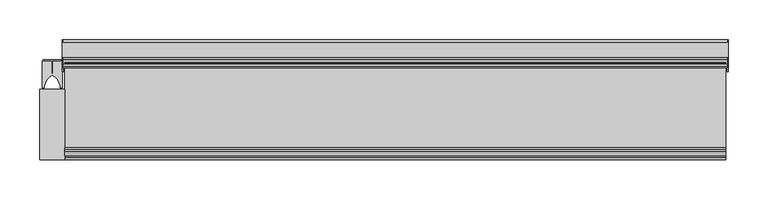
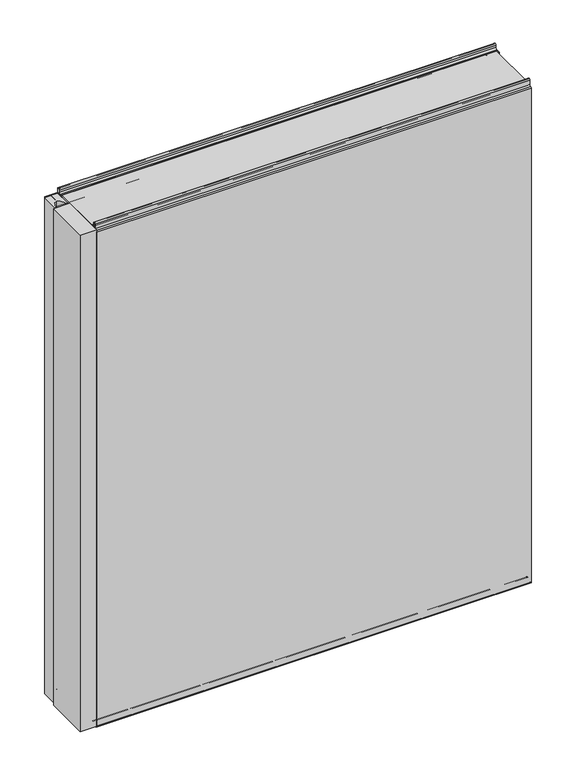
"""IFC4 building model written with IfcOpenShell, lengths in millimetres: plate geometry, Fronttop : Fronttop 150/1000."""

from ifc_helpers import new_model, si_unit, point, frame, frame_2d, origin, origin_with_axes, place, context, project, spatial, polyline, circle_curve, trimmed, segment, composite_curve, outline, extrude, source, transform, mapped, element, save
from ifc_brep_helpers import plane_surface, cylinder_surface, revolved_surface, advanced_brep


def plate_19c01b39(model_context):
    return source(origin(), model_context, "Body", "SolidModel", [
        advanced_brep(
        [(-416.5, 124.0, 1008.0), (-416.5, 121.0, 1008.0), (-416.5, 121.0, 1004.0), (-416.5, 117.0, 1000.0), (-416.5, 115.0, 1000.0), (-416.5, 115.0, 1001.0), (-416.5, 117.0, 1001.0), (-416.5, 120.0, 1004.0), (-416.5, 120.0, 1008.0), (-416.5, 125.0, 1008.0), (-416.5, 125.0, 1000.0), (-416.5, 124.0, 1000.0), (416.5, 125.0, 1008.0), (416.5, 120.0, 1008.0), (416.5, 120.0, 1004.0), (416.5, 117.0, 1001.0), (416.5, 115.0, 1001.0), (416.5, 115.0, 1000.0), (416.5, 117.0, 1000.0), (416.5, 121.0, 1004.0), (416.5, 121.0, 1008.0), (416.5, 124.0, 1008.0), (416.5, 124.0, 1000.0), (416.5, 125.0, 1000.0), (-416.5, 117.0, 2.0), (416.5, 117.0, 2.0), (416.5, 115.0, 2.0), (-416.5, 115.0, 2.0), (-416.5, 119.0, 4.0), (416.5, 119.0, 4.0), (-416.5, 119.0, 8.0), (416.5, 119.0, 8.0), (-416.5, 126.0, 8.0), (416.5, 126.0, 8.0), (-416.5, 126.0, 0.0), (416.5, 126.0, 0.0), (-416.5, 129.0, -3.0), (416.5, 129.0, -3.0), (-416.5, 125.0, -3.0), (-417.5, 125.0, -3.0), (-417.5, 147.0, -3.0), (-416.5, 147.0, -3.0), (416.5, 147.0, -3.0), (417.5, 147.0, -3.0), (417.5, 125.0, -3.0), (416.5, 125.0, -3.0), (-416.5, 150.0, 0.0), (416.5, 150.0, 0.0), (-417.5, 150.0, 0.0), (-417.5, 150.0, 969.0), (-416.5, 150.0, 969.0), (416.5, 150.0, 969.0), (417.5, 150.0, 969.0), (417.5, 150.0, 0.0), (-416.5, 147.0, 972.0), (416.5, 147.0, 972.0), (-417.5, 147.0, 972.0), (-417.5, 128.0, 972.0), (-416.5, 128.0, 972.0), (416.5, 128.0, 972.0), (417.5, 128.0, 972.0), (417.5, 147.0, 972.0), (-416.5, 125.0, 975.0), (416.5, 125.0, 975.0), (-417.5, 125.0, 975.0), (-417.5, 125.0, 1000.0), (417.5, 125.0, 1000.0), (417.5, 125.0, 975.0), (-416.5, 124.0, 975.0), (416.5, 124.0, 975.0), (-416.5, 128.0, 971.0), (416.5, 128.0, 971.0), (-416.5, 147.0, 971.0), (416.5, 147.0, 971.0), (-416.5, 149.0, 969.0), (416.5, 149.0, 969.0), (-416.5, 149.0, 0.0), (416.5, 149.0, 0.0), (-416.5, 147.0, -2.0), (416.5, 147.0, -2.0), (-416.5, 129.0, -2.0), (416.5, 129.0, -2.0), (-416.5, 127.0, 0.0), (416.5, 127.0, 0.0), (-416.5, 127.0, 8.0), (416.5, 127.0, 8.0), (-416.5, 118.0, 8.0), (416.5, 118.0, 8.0), (-416.5, 118.0, 4.0), (416.5, 118.0, 4.0), (-416.5, 117.0, 3.0), (416.5, 117.0, 3.0), (-416.5, 115.0, 3.0), (416.5, 115.0, 3.0), (417.5, 110.0, 1000.0), (417.5, 110.0, 0.0), (417.5, 125.0, 0.0), (416.5, 125.0, 0.0), (416.5, 110.0, 0.0), (416.5, 110.0, 1000.0), (-417.5, 125.0, 0.0), (-417.5, 110.0, 0.0), (-417.5, 110.0, 1000.0), (-416.5, 110.0, 1000.0), (-416.5, 110.0, 0.0), (-416.5, 125.0, 0.0)],
        [
            (0, 1, circle_curve(frame((-416.5, 122.5, 1008.0), z_axis=(1.0, 0.0, 0.0), x_axis=(0.0, -1.0, 0.0)), 1.5)),
            (1, 2),
            (2, 3, circle_curve(frame((-416.5, 117.0, 1004.0), z_axis=(-1.0, 0.0, 0.0), x_axis=(0.0, -1.0, 0.0)), 4.0)),
            (3, 4),
            (4, 5),
            (5, 6),
            (6, 7, circle_curve(frame((-416.5, 117.0, 1004.0), z_axis=(1.0, 0.0, 0.0), x_axis=(0.0, -1.0, 0.0)), 3.0)),
            (7, 8),
            (8, 9, circle_curve(frame((-416.5, 122.5, 1008.0), z_axis=(-1.0, 0.0, 0.0), x_axis=(0.0, -1.0, 0.0)), 2.5)),
            (9, 10),
            (10, 11),
            (11, 0),
            (12, 13, circle_curve(frame((416.5, 122.5, 1008.0), z_axis=(1.0, 0.0, 0.0), x_axis=(0.0, -1.0, 0.0)), 2.5)),
            (13, 14),
            (14, 15, circle_curve(frame((416.5, 117.0, 1004.0), z_axis=(-1.0, 0.0, 0.0), x_axis=(0.0, -1.0, 0.0)), 3.0)),
            (15, 16),
            (16, 17),
            (17, 18),
            (18, 19, circle_curve(frame((416.5, 117.0, 1004.0), z_axis=(1.0, 0.0, 0.0), x_axis=(0.0, -1.0, 0.0)), 4.0)),
            (19, 20),
            (20, 21, circle_curve(frame((416.5, 122.5, 1008.0), z_axis=(-1.0, 0.0, 0.0), x_axis=(0.0, -1.0, 0.0)), 1.5)),
            (21, 22),
            (22, 23),
            (23, 12),
            (24, 25),
            (25, 26),
            (26, 27),
            (27, 24),
            (24, 28, circle_curve(frame((-416.5, 117.0, 4.0), z_axis=(1.0, 0.0, 0.0), x_axis=(0.0, -1.0, 0.0)), 2.0)),
            (28, 29),
            (29, 25, circle_curve(frame((416.5, 117.0, 4.0), z_axis=(-1.0, 0.0, 0.0), x_axis=(0.0, -1.0, 0.0)), 2.0)),
            (28, 30),
            (30, 31),
            (31, 29),
            (30, 32, circle_curve(frame((-416.5, 122.5, 8.0), z_axis=(-1.0, 0.0, 0.0), x_axis=(0.0, -1.0, 0.0)), 3.5)),
            (32, 33),
            (33, 31, circle_curve(frame((416.5, 122.5, 8.0), z_axis=(1.0, 0.0, 0.0), x_axis=(0.0, -1.0, 0.0)), 3.5)),
            (32, 34),
            (34, 35),
            (35, 33),
            (34, 36, circle_curve(frame((-416.5, 129.0, 0.0), z_axis=(1.0, 0.0, 0.0), x_axis=(0.0, -1.0, 0.0)), 3.0)),
            (36, 37),
            (37, 35, circle_curve(frame((416.5, 129.0, 0.0), z_axis=(-1.0, 0.0, 0.0), x_axis=(0.0, -1.0, 0.0)), 3.0)),
            (36, 38),
            (38, 39),
            (39, 40),
            (40, 41),
            (41, 42),
            (42, 43),
            (43, 44),
            (44, 45),
            (45, 37),
            (41, 46, circle_curve(frame((-416.5, 147.0, 0.0), z_axis=(1.0, 0.0, 0.0), x_axis=(0.0, -1.0, 0.0)), 3.0)),
            (46, 47),
            (47, 42, circle_curve(frame((416.5, 147.0, 0.0), z_axis=(-1.0, 0.0, 0.0), x_axis=(0.0, -1.0, 0.0)), 3.0)),
            (46, 48),
            (48, 49),
            (49, 50),
            (50, 51),
            (51, 52),
            (52, 53),
            (53, 47),
            (50, 54, circle_curve(frame((-416.5, 147.0, 969.0), z_axis=(1.0, 0.0, 0.0), x_axis=(0.0, -1.0, 0.0)), 3.0)),
            (54, 55),
            (55, 51, circle_curve(frame((416.5, 147.0, 969.0), z_axis=(-1.0, 0.0, 0.0), x_axis=(0.0, -1.0, 0.0)), 3.0)),
            (54, 56),
            (56, 57),
            (57, 58),
            (58, 59),
            (59, 60),
            (60, 61),
            (61, 55),
            (58, 62, circle_curve(frame((-416.5, 128.0, 975.0), z_axis=(-1.0, 0.0, 0.0), x_axis=(0.0, -1.0, 0.0)), 3.0)),
            (62, 63),
            (63, 59, circle_curve(frame((416.5, 128.0, 975.0), z_axis=(1.0, 0.0, 0.0), x_axis=(0.0, -1.0, 0.0)), 3.0)),
            (62, 64),
            (64, 65),
            (65, 10),
            (9, 12),
            (23, 66),
            (66, 67),
            (67, 63),
            (8, 13),
            (7, 14),
            (6, 15),
            (5, 16),
            (4, 17),
            (4, 3),
            (3, 18),
            (18, 17),
            (2, 19),
            (1, 20),
            (0, 21),
            (11, 68),
            (68, 69),
            (69, 22),
            (68, 70, circle_curve(frame((-416.5, 128.0, 975.0), z_axis=(1.0, 0.0, 0.0), x_axis=(0.0, -1.0, 0.0)), 4.0)),
            (70, 71),
            (71, 69, circle_curve(frame((416.5, 128.0, 975.0), z_axis=(-1.0, 0.0, 0.0), x_axis=(0.0, -1.0, 0.0)), 4.0)),
            (70, 72),
            (72, 73),
            (73, 71),
            (72, 74, circle_curve(frame((-416.5, 147.0, 969.0), z_axis=(-1.0, 0.0, 0.0), x_axis=(0.0, -1.0, 0.0)), 2.0)),
            (74, 75),
            (75, 73, circle_curve(frame((416.5, 147.0, 969.0), z_axis=(1.0, 0.0, 0.0), x_axis=(0.0, -1.0, 0.0)), 2.0)),
            (74, 76),
            (76, 77),
            (77, 75),
            (76, 78, circle_curve(frame((-416.5, 147.0, 0.0), z_axis=(-1.0, 0.0, 0.0), x_axis=(0.0, -1.0, 0.0)), 2.0)),
            (78, 79),
            (79, 77, circle_curve(frame((416.5, 147.0, 0.0), z_axis=(1.0, 0.0, 0.0), x_axis=(0.0, -1.0, 0.0)), 2.0)),
            (78, 80),
            (80, 81),
            (81, 79),
            (80, 82, circle_curve(frame((-416.5, 129.0, 0.0), z_axis=(-1.0, 0.0, 0.0), x_axis=(0.0, -1.0, 0.0)), 2.0)),
            (82, 83),
            (83, 81, circle_curve(frame((416.5, 129.0, 0.0), z_axis=(1.0, 0.0, 0.0), x_axis=(0.0, -1.0, 0.0)), 2.0)),
            (82, 84),
            (84, 85),
            (85, 83),
            (84, 86, circle_curve(frame((-416.5, 122.5, 8.0), z_axis=(1.0, 0.0, 0.0), x_axis=(0.0, -1.0, 0.0)), 4.5)),
            (86, 87),
            (87, 85, circle_curve(frame((416.5, 122.5, 8.0), z_axis=(-1.0, 0.0, 0.0), x_axis=(0.0, -1.0, 0.0)), 4.5)),
            (86, 88),
            (88, 89),
            (89, 87),
            (88, 90, circle_curve(frame((-416.5, 117.0, 4.0), z_axis=(-1.0, 0.0, 0.0), x_axis=(0.0, -1.0, 0.0)), 1.0)),
            (90, 91),
            (91, 89, circle_curve(frame((416.5, 117.0, 4.0), z_axis=(1.0, 0.0, 0.0), x_axis=(0.0, -1.0, 0.0)), 1.0)),
            (90, 92),
            (92, 93),
            (93, 91),
            (26, 93),
            (92, 27),
            (66, 94),
            (94, 95),
            (95, 96),
            (96, 44),
            (43, 53, circle_curve(frame((417.5, 147.0, 0.0), z_axis=(1.0, 0.0, 0.0), x_axis=(0.0, 1.0, 0.0)), 3.0)),
            (52, 61, circle_curve(frame((417.5, 147.0, 969.0), z_axis=(1.0, 0.0, 0.0), x_axis=(0.0, 1.0, 0.0)), 3.0)),
            (60, 67, circle_curve(frame((417.5, 128.0, 975.0), z_axis=(-1.0, 0.0, 0.0), x_axis=(0.0, 1.0, 0.0)), 3.0)),
            (45, 97),
            (97, 98),
            (98, 99),
            (99, 17),
            (18, 22),
            (99, 94),
            (98, 95),
            (97, 96),
            (64, 57, circle_curve(frame((-417.5, 128.0, 975.0), z_axis=(1.0, 0.0, 0.0), x_axis=(0.0, 1.0, 0.0)), 3.0)),
            (56, 49, circle_curve(frame((-417.5, 147.0, 969.0), z_axis=(-1.0, 0.0, 0.0), x_axis=(0.0, 1.0, 0.0)), 3.0)),
            (48, 40, circle_curve(frame((-417.5, 147.0, 0.0), z_axis=(-1.0, 0.0, 0.0), x_axis=(0.0, 1.0, 0.0)), 3.0)),
            (39, 100),
            (100, 101),
            (101, 102),
            (102, 65),
            (103, 104),
            (104, 105),
            (105, 38),
            (11, 3),
            (4, 103),
            (102, 103),
            (101, 104),
            (100, 105),
        ],
        [
            plane_surface(frame((-416.5, 0.0, 0.0), z_axis=(-1.0, 0.0, 0.0), x_axis=(0.0, 0.0, 1.0))),
            plane_surface(frame((416.5, 0.0, 0.0), z_axis=(1.0, 0.0, 0.0), x_axis=(0.0, 0.0, 1.0))),
            plane_surface(frame((-416.5, 117.0, 2.0), z_axis=(0.0, 0.0, -1.0), x_axis=(1.0, 0.0, 0.0))),
            cylinder_surface(frame((-416.5, 117.0, 4.0), z_axis=(-1.0, 0.0, 0.0), x_axis=(0.0, -1.0, 0.0)), 2.0),
            plane_surface(frame((-416.5, 119.0, 8.0), z_axis=(0.0, 1.0, 0.0), x_axis=(1.0, 0.0, 0.0))),
            revolved_surface(polyline([(416.5, 119.0, 8.0), (-416.5, 119.0, 8.0)]), (-416.5, 122.5, 8.0), (1.0, 0.0, 0.0)),
            plane_surface(frame((-416.5, 126.0, 0.0), z_axis=(0.0, -1.0, 0.0), x_axis=(1.0, 0.0, 0.0))),
            cylinder_surface(frame((-416.5, 129.0, 0.0), z_axis=(-1.0, 0.0, 0.0), x_axis=(0.0, -1.0, 0.0)), 3.0),
            plane_surface(frame((-416.5, 147.0, -3.0), z_axis=(0.0, 0.0, -1.0), x_axis=(1.0, 0.0, 0.0))),
            cylinder_surface(frame((-416.5, 147.0, 0.0), z_axis=(-1.0, 0.0, 0.0), x_axis=(0.0, -1.0, 0.0)), 3.0),
            plane_surface(frame((-416.5, 150.0, 969.0), z_axis=(0.0, 1.0, 0.0), x_axis=(1.0, 0.0, 0.0))),
            cylinder_surface(frame((-416.5, 147.0, 969.0), z_axis=(-1.0, 0.0, 0.0), x_axis=(0.0, -1.0, 0.0)), 3.0),
            plane_surface(frame((-416.5, 128.0, 972.0), z_axis=(0.0, 0.0, 1.0), x_axis=(1.0, 0.0, 0.0))),
            revolved_surface(polyline([(416.5, 125.0, 975.0), (-416.5, 125.0, 975.0)]), (-416.5, 128.0, 975.0), (1.0, 0.0, 0.0)),
            plane_surface(frame((-416.5, 125.0, 1008.0), z_axis=(0.0, 1.0, 0.0), x_axis=(1.0, 0.0, 0.0))),
            cylinder_surface(frame((-416.5, 122.5, 1008.0), z_axis=(-1.0, 0.0, 0.0), x_axis=(0.0, -1.0, 0.0)), 2.5),
            plane_surface(frame((-416.5, 120.0, 1004.0), z_axis=(0.0, -1.0, 0.0), x_axis=(1.0, 0.0, 0.0))),
            revolved_surface(polyline([(416.5, 114.0, 1004.0), (-416.5, 114.0, 1004.0)]), (-416.5, 117.0, 1004.0), (1.0, 0.0, 0.0)),
            plane_surface(frame((-416.5, 115.0, 1001.0), z_axis=(0.0, 0.0, 1.0), x_axis=(1.0, 0.0, 0.0))),
            plane_surface(frame((-416.5, 115.0, 1000.0), z_axis=(0.0, -1.0, 0.0), x_axis=(1.0, 0.0, 0.0))),
            plane_surface(frame((-416.5, 117.0, 1000.0), z_axis=(0.0, 0.0, -1.0), x_axis=(1.0, 0.0, 0.0))),
            cylinder_surface(frame((-416.5, 117.0, 1004.0), z_axis=(-1.0, 0.0, 0.0), x_axis=(0.0, -1.0, 0.0)), 4.0),
            plane_surface(frame((-416.5, 121.0, 1008.0), z_axis=(0.0, 1.0, 0.0), x_axis=(1.0, 0.0, 0.0))),
            revolved_surface(polyline([(416.5, 121.0, 1008.0), (-416.5, 121.0, 1008.0)]), (-416.5, 122.5, 1008.0), (1.0, 0.0, 0.0)),
            plane_surface(frame((-416.5, 124.0, 975.0), z_axis=(0.0, -1.0, 0.0), x_axis=(1.0, 0.0, 0.0))),
            cylinder_surface(frame((-416.5, 128.0, 975.0), z_axis=(-1.0, 0.0, 0.0), x_axis=(0.0, -1.0, 0.0)), 4.0),
            plane_surface(frame((-416.5, 147.0, 971.0), z_axis=(0.0, 0.0, -1.0), x_axis=(1.0, 0.0, 0.0))),
            revolved_surface(polyline([(416.5, 145.0, 969.0), (-416.5, 145.0, 969.0)]), (-416.5, 147.0, 969.0), (1.0, 0.0, 0.0)),
            plane_surface(frame((-416.5, 149.0, 0.0), z_axis=(0.0, -1.0, 0.0), x_axis=(1.0, 0.0, 0.0))),
            revolved_surface(polyline([(416.5, 145.0, 0.0), (-416.5, 145.0, 0.0)]), (-416.5, 147.0, 0.0), (1.0, 0.0, 0.0)),
            plane_surface(frame((-416.5, 129.0, -2.0), z_axis=(0.0, 0.0, 1.0), x_axis=(1.0, 0.0, 0.0))),
            revolved_surface(polyline([(416.5, 127.0, 0.0), (-416.5, 127.0, 0.0)]), (-416.5, 129.0, 0.0), (1.0, 0.0, 0.0)),
            plane_surface(frame((-416.5, 127.0, 8.0), z_axis=(0.0, 1.0, 0.0), x_axis=(1.0, 0.0, 0.0))),
            cylinder_surface(frame((-416.5, 122.5, 8.0), z_axis=(-1.0, 0.0, 0.0), x_axis=(0.0, -1.0, 0.0)), 4.5),
            plane_surface(frame((-416.5, 118.0, 4.0), z_axis=(0.0, -1.0, 0.0), x_axis=(1.0, 0.0, 0.0))),
            revolved_surface(polyline([(416.5, 116.0, 4.0), (-416.5, 116.0, 4.0)]), (-416.5, 117.0, 4.0), (1.0, 0.0, 0.0)),
            plane_surface(frame((-416.5, 115.0, 3.0), z_axis=(0.0, 0.0, 1.0), x_axis=(1.0, 0.0, 0.0))),
            plane_surface(frame((-416.5, 115.0, 2.0), z_axis=(0.0, -1.0, 0.0), x_axis=(1.0, 0.0, 0.0))),
            plane_surface(frame((417.5, 125.0, 1000.0), z_axis=(1.0, 0.0, 0.0), x_axis=(0.0, -1.0, 0.0))),
            plane_surface(frame((416.5, 125.0, 1000.0), z_axis=(-1.0, 0.0, 0.0), x_axis=(0.0, 1.0, 0.0))),
            plane_surface(frame((417.5, 125.0, 1000.0), z_axis=(0.0, 0.0, 1.0), x_axis=(-1.0, 0.0, 0.0))),
            plane_surface(frame((417.5, 110.0, 1000.0), z_axis=(0.0, -1.0, 0.0), x_axis=(-1.0, 0.0, 0.0))),
            plane_surface(frame((417.5, 110.0, 0.0), z_axis=(0.0, 0.0, -1.0), x_axis=(-1.0, 0.0, 0.0))),
            cylinder_surface(frame((416.5, 147.0, 0.0), z_axis=(1.0, 0.0, 0.0), x_axis=(0.0, 1.0, 0.0)), 3.0),
            cylinder_surface(frame((416.5, 147.0, 969.0), z_axis=(1.0, 0.0, 0.0), x_axis=(0.0, 1.0, 0.0)), 3.0),
            revolved_surface(polyline([(416.5, 131.0, 975.0), (417.5, 131.0, 975.0)]), (416.5, 128.0, 975.0), (-1.0, 0.0, 0.0)),
            plane_surface(frame((-417.5, 125.0, 1000.0), z_axis=(-1.0, 0.0, 0.0), x_axis=(0.0, 1.0, 0.0))),
            plane_surface(frame((-416.5, 125.0, 1000.0), z_axis=(1.0, 0.0, 0.0), x_axis=(0.0, -1.0, 0.0))),
            plane_surface(frame((-416.5, 125.0, 1000.0), z_axis=(0.0, 0.0, 1.0), x_axis=(-1.0, 0.0, 0.0))),
            plane_surface(frame((-416.5, 110.0, 1000.0), z_axis=(0.0, -1.0, 0.0), x_axis=(-1.0, 0.0, 0.0))),
            plane_surface(frame((-416.5, 110.0, 0.0), z_axis=(0.0, 0.0, -1.0), x_axis=(-1.0, 0.0, 0.0))),
            cylinder_surface(frame((-417.5, 147.0, 0.0), z_axis=(1.0, 0.0, 0.0), x_axis=(0.0, 1.0, 0.0)), 3.0),
            cylinder_surface(frame((-417.5, 147.0, 969.0), z_axis=(1.0, 0.0, 0.0), x_axis=(0.0, 1.0, 0.0)), 3.0),
            revolved_surface(polyline([(-417.5, 131.0, 975.0), (-416.5, 131.0, 975.0)]), (-417.5, 128.0, 975.0), (-1.0, 0.0, 0.0)),
            plane_surface(frame((417.5, 125.0, 0.0), z_axis=(0.0, -1.0, 0.0), x_axis=(-1.0, 0.0, 0.0))),
            plane_surface(frame((-416.5, 125.0, 0.0), z_axis=(0.0, -1.0, 0.0), x_axis=(-1.0, 0.0, 0.0))),
        ],
        [
            (0, [[1, 2, 3, 4, 5, 6, 7, 8, 9, 10, 11, 12]]),
            (1, [[13, 14, 15, 16, 17, 18, 19, 20, 21, 22, 23, 24]]),
            (2, [[25, 26, 27, 28]]),
            (3, [[-25, 29, 30, 31]]),
            (4, [[-30, 32, 33, 34]]),
            (5, [[-33, 35, 36, 37]]),
            (6, [[-36, 38, 39, 40]]),
            (7, [[-39, 41, 42, 43]]),
            (8, [[-42, 44, 45, 46, 47, 48, 49, 50, 51, 52]]),
            (9, [[-48, 53, 54, 55]]),
            (10, [[-54, 56, 57, 58, 59, 60, 61, 62]]),
            (11, [[-59, 63, 64, 65]]),
            (12, [[-64, 66, 67, 68, 69, 70, 71, 72]]),
            (13, [[-69, 73, 74, 75]]),
            (14, [[-74, 76, 77, 78, -10, 79, -24, 80, 81, 82]]),
            (15, [[-9, 83, -13, -79]]),
            (16, [[-8, 84, -14, -83]]),
            (17, [[-7, 85, -15, -84]]),
            (18, [[-6, 86, -16, -85]]),
            (19, [[-5, 87, -17, -86]]),
            (20, [[-87, 88, 89, 90]]),
            (21, [[-3, 91, -19, -89]]),
            (22, [[-2, 92, -20, -91]]),
            (23, [[-1, 93, -21, -92]]),
            (24, [[-93, -12, 94, 95, 96, -22]]),
            (25, [[-95, 97, 98, 99]]),
            (26, [[-98, 100, 101, 102]]),
            (27, [[-101, 103, 104, 105]]),
            (28, [[-104, 106, 107, 108]]),
            (29, [[-107, 109, 110, 111]]),
            (30, [[-110, 112, 113, 114]]),
            (31, [[-113, 115, 116, 117]]),
            (32, [[-116, 118, 119, 120]]),
            (33, [[-119, 121, 122, 123]]),
            (34, [[-122, 124, 125, 126]]),
            (35, [[-125, 127, 128, 129]]),
            (36, [[-128, 130, 131, 132]]),
            (37, [[-27, 133, -131, 134]]),
            (38, [[135, 136, 137, 138, -50, 139, -61, 140, -71, 141, -81]]),
            (39, [[142, 143, 144, 145, -90, 146, -96, -99, -102, -105, -108, -111, -114, -117, -120, -123, -126, -129, -132, -133, -26, -31, -34, -37, -40, -43, -52]]),
            (40, [[-135, -80, -23, -146, -18, -145, 147]]),
            (41, [[-136, -147, -144, 148]]),
            (42, [[-137, -148, -143, 149]]),
            (43, [[-139, -49, -55, -62]]),
            (44, [[-140, -60, -65, -72]]),
            (45, [[-141, -70, -75, -82]]),
            (46, [[-77, 150, -67, 151, -57, 152, -46, 153, 154, 155, 156]]),
            (47, [[157, 158, 159, -44, -41, -38, -35, -32, -29, -28, -134, -130, -127, -124, -121, -118, -115, -112, -109, -106, -103, -100, -97, -94, 160, -88, 161]]),
            (48, [[-156, 162, -161, -4, -160, -11, -78]]),
            (49, [[-155, 163, -157, -162]]),
            (50, [[-154, 164, -158, -163]]),
            (51, [[-152, -56, -53, -47]]),
            (52, [[-151, -66, -63, -58]]),
            (53, [[-150, -76, -73, -68]]),
            (54, [[-138, -149, -142, -51]]),
            (55, [[-153, -45, -159, -164]]),
        ],
    ),
        extrude(outline(composite_curve([segment(polyline([(-442.5001545, 123.5), (-430.75, 123.5), (-430.75, 107.5), (-429.25, 107.5), (-429.25, 123.5), (-417.4998455, 123.5), (-417.4998455, 90.0), (-420.25, 90.0), (-420.25, 92.5)]), True, "CONTINUOUS"), segment(trimmed(circle_curve(frame_2d((-438.0338021, 89.3183984)), 18.0661619), [point((-420.25, 92.5))], [point((-430.0, 105.5))], True, "CARTESIAN"), True, "CONTINUOUS"), segment(trimmed(circle_curve(frame_2d((-421.9661979, 89.3183984)), 18.0661619), [point((-430.0, 105.5))], [point((-439.75, 92.5))], True, "CARTESIAN"), True, "CONTINUOUS"), segment(polyline([(-439.75, 92.5), (-439.75, 90.0), (-442.5001545, 90.0), (-442.5001545, 123.5)]), True, "CONTINUOUS")], self_intersect=False)), origin_with_axes(), (0.0, 0.0, 1.0), 1000.0),
        extrude(outline(polyline([(-414.5, 0.0), (-445.5, 0.0), (-445.5, 88.0), (-414.5, 88.0), (-414.5, 0.0)])), origin_with_axes(), (0.0, 0.0, 1.0), 1000.0),
        extrude(outline(polyline([(-441.5051154, 125.0), (-418.4948846, 125.0), (-418.4948846, 123.5), (-429.3497504, 123.5), (-429.3497504, 109.0759655), (-430.65, 109.0759655), (-430.65, 123.5), (-441.5051154, 123.5), (-441.5051154, 125.0)])), origin_with_axes(), (0.0, 0.0, 1.0), 1000.0),
        advanced_brep(
        [(-414.5, 13.0, 1001.0), (-414.5, 15.0, 1001.0), (-414.5, 15.0, 1000.0), (-414.5, 13.0, 1000.0), (-414.5, 9.0, 1004.0), (-414.5, 9.0, 1008.0), (-414.5, 6.0, 1008.0), (-414.5, 6.0, 999.5), (-414.5, 2.1134897, 996.0214069), (-414.5, 1.0, 995.0), (-414.5, 1.0, -0.5), (-414.5, 3.0, -0.5), (-414.5, 3.0, 8.0), (-414.5, 12.0, 8.0), (-414.5, 12.0, 4.0), (-414.5, 13.0, 3.0), (-414.5, 15.0, 3.0), (-414.5, 15.0, 2.0), (-414.5, 13.0, 2.0), (-414.5, 11.0, 4.0), (-414.5, 11.0, 8.0), (-414.5, 4.0, 8.0), (-414.5, 4.0, -0.5), (-414.5, 0.0, -0.5), (-414.5, 0.0, 995.0), (-414.5, 2.220863, 996.9877675), (-414.5, 5.0, 999.5), (-414.5, 5.0, 1008.0), (-414.5, 10.0, 1008.0), (-414.5, 10.0, 1004.0), (414.5, 13.0, 1001.0), (414.5, 10.0, 1004.0), (414.5, 10.0, 1008.0), (414.5, 5.0, 1008.0), (414.5, 5.0, 999.5), (414.5, 2.2239212, 997.0152907), (414.5, 0.0, 995.0), (414.5, 0.0, -0.5), (414.5, 4.0, -0.5), (414.5, 4.0, 8.0), (414.5, 11.0, 8.0), (414.5, 11.0, 4.0), (414.5, 13.0, 2.0), (414.5, 15.0, 2.0), (414.5, 15.0, 3.0), (414.5, 13.0, 3.0), (414.5, 12.0, 4.0), (414.5, 12.0, 8.0), (414.5, 3.0, 8.0), (414.5, 3.0, -0.5), (414.5, 1.0, -0.5), (414.5, 1.0, 995.0), (414.5, 2.1104315, 995.9938837), (414.5, 6.0, 999.5), (414.5, 6.0, 1008.0), (414.5, 9.0, 1008.0), (414.5, 9.0, 1004.0), (414.5, 13.0, 1000.0), (414.5, 15.0, 1000.0), (414.5, 15.0, 1001.0)],
        [
            (0, 1),
            (1, 2),
            (2, 3),
            (3, 4, circle_curve(frame((-414.5, 13.0, 1004.0), z_axis=(-1.0, 0.0, 0.0), x_axis=(0.0, -1.0, 0.0)), 4.0)),
            (4, 5),
            (5, 6, circle_curve(frame((-414.5, 7.5, 1008.0), z_axis=(1.0, 0.0, 0.0), x_axis=(0.0, -1.0, 0.0)), 1.5)),
            (6, 7),
            (7, 8, circle_curve(frame((-414.5, 2.5, 999.5), z_axis=(-1.0, 0.0, 0.0), x_axis=(0.0, -1.0, 0.0)), 3.5)),
            (8, 9, circle_curve(frame((-414.5, 2.0, 995.0), z_axis=(1.0, 0.0, 0.0), x_axis=(0.0, -1.0, 0.0)), 1.0)),
            (9, 10),
            (10, 11, circle_curve(frame((-414.5, 2.0, -0.5), z_axis=(1.0, 0.0, 0.0), x_axis=(0.0, -1.0, 0.0)), 1.0)),
            (11, 12),
            (12, 13, circle_curve(frame((-414.5, 7.5, 8.0), z_axis=(-1.0, 0.0, 0.0), x_axis=(0.0, -1.0, 0.0)), 4.5)),
            (13, 14),
            (14, 15, circle_curve(frame((-414.5, 13.0, 4.0), z_axis=(1.0, 0.0, 0.0), x_axis=(0.0, -1.0, 0.0)), 1.0)),
            (15, 16),
            (16, 17),
            (17, 18),
            (18, 19, circle_curve(frame((-414.5, 13.0, 4.0), z_axis=(-1.0, 0.0, 0.0), x_axis=(0.0, -1.0, 0.0)), 2.0)),
            (19, 20),
            (20, 21, circle_curve(frame((-414.5, 7.5, 8.0), z_axis=(1.0, 0.0, 0.0), x_axis=(0.0, -1.0, 0.0)), 3.5)),
            (21, 22),
            (22, 23, circle_curve(frame((-414.5, 2.0, -0.5), z_axis=(-1.0, 0.0, 0.0), x_axis=(0.0, -1.0, 0.0)), 2.0)),
            (23, 24),
            (24, 25, circle_curve(frame((-414.5, 2.0, 995.0), z_axis=(-1.0, 0.0, 0.0), x_axis=(0.0, -1.0, 0.0)), 2.0)),
            (25, 26, circle_curve(frame((-414.5, 2.5, 999.5), z_axis=(1.0, 0.0, 0.0), x_axis=(0.0, -1.0, 0.0)), 2.5)),
            (26, 27),
            (27, 28, circle_curve(frame((-414.5, 7.5, 1008.0), z_axis=(-1.0, 0.0, 0.0), x_axis=(0.0, -1.0, 0.0)), 2.5)),
            (28, 29),
            (29, 0, circle_curve(frame((-414.5, 13.0, 1004.0), z_axis=(1.0, 0.0, 0.0), x_axis=(0.0, -1.0, 0.0)), 3.0)),
            (30, 31, circle_curve(frame((414.5, 13.0, 1004.0), z_axis=(-1.0, 0.0, 0.0), x_axis=(0.0, -1.0, 0.0)), 3.0)),
            (31, 32),
            (32, 33, circle_curve(frame((414.5, 7.5, 1008.0), z_axis=(1.0, 0.0, 0.0), x_axis=(0.0, -1.0, 0.0)), 2.5)),
            (33, 34),
            (34, 35, circle_curve(frame((414.5, 2.5, 999.5), z_axis=(-1.0, 0.0, 0.0), x_axis=(0.0, -1.0, 0.0)), 2.5)),
            (35, 36, circle_curve(frame((414.5, 2.0, 995.0), z_axis=(1.0, 0.0, 0.0), x_axis=(0.0, -1.0, 0.0)), 2.0)),
            (36, 37),
            (37, 38, circle_curve(frame((414.5, 2.0, -0.5), z_axis=(1.0, 0.0, 0.0), x_axis=(0.0, -1.0, 0.0)), 2.0)),
            (38, 39),
            (39, 40, circle_curve(frame((414.5, 7.5, 8.0), z_axis=(-1.0, 0.0, 0.0), x_axis=(0.0, -1.0, 0.0)), 3.5)),
            (40, 41),
            (41, 42, circle_curve(frame((414.5, 13.0, 4.0), z_axis=(1.0, 0.0, 0.0), x_axis=(0.0, -1.0, 0.0)), 2.0)),
            (42, 43),
            (43, 44),
            (44, 45),
            (45, 46, circle_curve(frame((414.5, 13.0, 4.0), z_axis=(-1.0, 0.0, 0.0), x_axis=(0.0, -1.0, 0.0)), 1.0)),
            (46, 47),
            (47, 48, circle_curve(frame((414.5, 7.5, 8.0), z_axis=(1.0, 0.0, 0.0), x_axis=(0.0, -1.0, 0.0)), 4.5)),
            (48, 49),
            (49, 50, circle_curve(frame((414.5, 2.0, -0.5), z_axis=(-1.0, 0.0, 0.0), x_axis=(0.0, -1.0, 0.0)), 1.0)),
            (50, 51),
            (51, 52, circle_curve(frame((414.5, 2.0, 995.0), z_axis=(-1.0, 0.0, 0.0), x_axis=(0.0, -1.0, 0.0)), 1.0)),
            (52, 53, circle_curve(frame((414.5, 2.5, 999.5), z_axis=(1.0, 0.0, 0.0), x_axis=(0.0, -1.0, 0.0)), 3.5)),
            (53, 54),
            (54, 55, circle_curve(frame((414.5, 7.5, 1008.0), z_axis=(-1.0, 0.0, 0.0), x_axis=(0.0, -1.0, 0.0)), 1.5)),
            (55, 56),
            (56, 57, circle_curve(frame((414.5, 13.0, 1004.0), z_axis=(1.0, 0.0, 0.0), x_axis=(0.0, -1.0, 0.0)), 4.0)),
            (57, 58),
            (58, 59),
            (59, 30),
            (0, 30),
            (59, 1),
            (58, 2),
            (57, 3),
            (56, 4),
            (55, 5),
            (54, 6),
            (53, 7),
            (52, 8),
            (51, 9),
            (50, 10),
            (49, 11),
            (48, 12),
            (47, 13),
            (46, 14),
            (45, 15),
            (44, 16),
            (43, 17),
            (42, 18),
            (41, 19),
            (40, 20),
            (39, 21),
            (38, 22),
            (37, 23),
            (36, 24),
            (35, 25),
            (34, 26),
            (33, 27),
            (32, 28),
            (31, 29),
        ],
        [
            plane_surface(frame((-414.5, 0.0, 0.0), z_axis=(-1.0, 0.0, 0.0), x_axis=(0.0, 0.0, 1.0))),
            plane_surface(frame((414.5, 0.0, 0.0), z_axis=(1.0, 0.0, 0.0), x_axis=(0.0, 0.0, 1.0))),
            plane_surface(frame((-414.5, 13.0, 1001.0), z_axis=(0.0, 0.0, 1.0), x_axis=(1.0, 0.0, 0.0))),
            plane_surface(frame((-414.5, 15.0, 1001.0), z_axis=(0.0, 1.0, 0.0), x_axis=(1.0, 0.0, 0.0))),
            plane_surface(frame((-414.5, 15.0, 1000.0), z_axis=(0.0, 0.0, -1.0), x_axis=(1.0, 0.0, 0.0))),
            cylinder_surface(frame((-414.5, 13.0, 1004.0), z_axis=(-1.0, 0.0, 0.0), x_axis=(0.0, -1.0, 0.0)), 4.0),
            plane_surface(frame((-414.5, 9.0, 1004.0), z_axis=(0.0, -1.0, 0.0), x_axis=(1.0, 0.0, 0.0))),
            revolved_surface(polyline([(414.5, 6.0, 1008.0), (-414.5, 6.0, 1008.0)]), (-414.5, 7.5, 1008.0), (1.0, 0.0, 0.0)),
            plane_surface(frame((-414.5, 6.0, 1008.0), z_axis=(0.0, 1.0, 0.0), x_axis=(1.0, 0.0, 0.0))),
            cylinder_surface(frame((-414.5, 2.5, 999.5), z_axis=(-1.0, 0.0, 0.0), x_axis=(0.0, -1.0, 0.0)), 3.5),
            revolved_surface(polyline([(414.5, 1.0, 995.0), (-414.5, 1.0, 995.0)]), (-414.5, 2.0, 995.0), (1.0, 0.0, 0.0)),
            plane_surface(frame((-414.5, 1.0, 995.0), z_axis=(0.0, 1.0, 0.0), x_axis=(1.0, 0.0, 0.0))),
            revolved_surface(polyline([(414.5, 1.0, -0.5), (-414.5, 1.0, -0.5)]), (-414.5, 2.0, -0.5), (1.0, 0.0, 0.0)),
            plane_surface(frame((-414.5, 3.0, -0.5), z_axis=(0.0, -1.0, 0.0), x_axis=(1.0, 0.0, 0.0))),
            cylinder_surface(frame((-414.5, 7.5, 8.0), z_axis=(-1.0, 0.0, 0.0), x_axis=(0.0, -1.0, 0.0)), 4.5),
            plane_surface(frame((-414.5, 12.0, 8.0), z_axis=(0.0, 1.0, 0.0), x_axis=(1.0, 0.0, 0.0))),
            revolved_surface(polyline([(414.5, 12.0, 4.0), (-414.5, 12.0, 4.0)]), (-414.5, 13.0, 4.0), (1.0, 0.0, 0.0)),
            plane_surface(frame((-414.5, 13.0, 3.0), z_axis=(0.0, 0.0, 1.0), x_axis=(1.0, 0.0, 0.0))),
            plane_surface(frame((-414.5, 15.0, 3.0), z_axis=(0.0, 1.0, 0.0), x_axis=(1.0, 0.0, 0.0))),
            plane_surface(frame((-414.5, 15.0, 2.0), z_axis=(0.0, 0.0, -1.0), x_axis=(1.0, 0.0, 0.0))),
            cylinder_surface(frame((-414.5, 13.0, 4.0), z_axis=(-1.0, 0.0, 0.0), x_axis=(0.0, -1.0, 0.0)), 2.0),
            plane_surface(frame((-414.5, 11.0, 4.0), z_axis=(0.0, -1.0, 0.0), x_axis=(1.0, 0.0, 0.0))),
            revolved_surface(polyline([(414.5, 4.0, 8.0), (-414.5, 4.0, 8.0)]), (-414.5, 7.5, 8.0), (1.0, 0.0, 0.0)),
            plane_surface(frame((-414.5, 4.0, 8.0), z_axis=(0.0, 1.0, 0.0), x_axis=(1.0, 0.0, 0.0))),
            cylinder_surface(frame((-414.5, 2.0, -0.5), z_axis=(-1.0, 0.0, 0.0), x_axis=(0.0, -1.0, 0.0)), 2.0),
            plane_surface(frame((-414.5, 0.0, -0.5), z_axis=(0.0, -1.0, 0.0), x_axis=(1.0, 0.0, 0.0))),
            cylinder_surface(frame((-414.5, 2.0, 995.0), z_axis=(-1.0, 0.0, 0.0), x_axis=(0.0, -1.0, 0.0)), 2.0),
            revolved_surface(polyline([(414.5, 0.0, 999.5), (-414.5, 0.0, 999.5)]), (-414.5, 2.5, 999.5), (1.0, 0.0, 0.0)),
            plane_surface(frame((-414.5, 5.0, 999.5), z_axis=(0.0, -1.0, 0.0), x_axis=(1.0, 0.0, 0.0))),
            cylinder_surface(frame((-414.5, 7.5, 1008.0), z_axis=(-1.0, 0.0, 0.0), x_axis=(0.0, -1.0, 0.0)), 2.5),
            plane_surface(frame((-414.5, 10.0, 1008.0), z_axis=(0.0, 1.0, 0.0), x_axis=(1.0, 0.0, 0.0))),
            revolved_surface(polyline([(414.5, 10.0, 1004.0), (-414.5, 10.0, 1004.0)]), (-414.5, 13.0, 1004.0), (1.0, 0.0, 0.0)),
        ],
        [
            (0, [[1, 2, 3, 4, 5, 6, 7, 8, 9, 10, 11, 12, 13, 14, 15, 16, 17, 18, 19, 20, 21, 22, 23, 24, 25, 26, 27, 28, 29, 30]]),
            (1, [[31, 32, 33, 34, 35, 36, 37, 38, 39, 40, 41, 42, 43, 44, 45, 46, 47, 48, 49, 50, 51, 52, 53, 54, 55, 56, 57, 58, 59, 60]]),
            (2, [[-1, 61, -60, 62]]),
            (3, [[-2, -62, -59, 63]]),
            (4, [[-3, -63, -58, 64]]),
            (5, [[-4, -64, -57, 65]]),
            (6, [[-5, -65, -56, 66]]),
            (7, [[-6, -66, -55, 67]]),
            (8, [[-7, -67, -54, 68]]),
            (9, [[-8, -68, -53, 69]]),
            (10, [[-9, -69, -52, 70]]),
            (11, [[-10, -70, -51, 71]]),
            (12, [[-11, -71, -50, 72]]),
            (13, [[-12, -72, -49, 73]]),
            (14, [[-13, -73, -48, 74]]),
            (15, [[-14, -74, -47, 75]]),
            (16, [[-15, -75, -46, 76]]),
            (17, [[-16, -76, -45, 77]]),
            (18, [[-17, -77, -44, 78]]),
            (19, [[-18, -78, -43, 79]]),
            (20, [[-19, -79, -42, 80]]),
            (21, [[-20, -80, -41, 81]]),
            (22, [[-21, -81, -40, 82]]),
            (23, [[-22, -82, -39, 83]]),
            (24, [[-23, -83, -38, 84]]),
            (25, [[-24, -84, -37, 85]]),
            (26, [[-25, -85, -36, 86]]),
            (27, [[-26, -86, -35, 87]]),
            (28, [[-27, -87, -34, 88]]),
            (29, [[-28, -88, -33, 89]]),
            (30, [[-29, -89, -32, 90]]),
            (31, [[-30, -90, -31, -61]]),
        ],
    ),
        extrude(outline(composite_curve([segment(polyline([(15.0, 3.0), (13.0, 3.0)]), True, "CONTINUOUS"), segment(trimmed(circle_curve(frame_2d((13.0, 4.0)), 1.0), [point((13.0, 3.0))], [point((12.0, 4.0))], False, "CARTESIAN"), True, "CONTINUOUS"), segment(polyline([(12.0, 4.0), (12.0, 8.0)]), True, "CONTINUOUS"), segment(trimmed(circle_curve(frame_2d((7.5, 8.0)), 4.5), [point((12.0, 8.0))], [point((3.0, 8.0))], True, "CARTESIAN"), True, "CONTINUOUS"), segment(polyline([(3.0, 8.0), (3.0, -0.5)]), True, "CONTINUOUS"), segment(trimmed(circle_curve(frame_2d((2.0, -0.5)), 1.0), [point((3.0, -0.5))], [point((1.0, -0.5))], False, "CARTESIAN"), True, "CONTINUOUS"), segment(polyline([(1.0, -0.5), (1.0, 995.0278643)]), True, "CONTINUOUS"), segment(trimmed(circle_curve(frame_2d((2.0, 995.0278643)), 1.0), [point((1.0, 995.0278643))], [point((2.1111111, 996.0216723))], False, "CARTESIAN"), True, "CONTINUOUS"), segment(trimmed(circle_curve(frame_2d((2.5, 999.5)), 3.5), [point((2.1111111, 996.0216723))], [point((6.0, 999.5))], True, "CARTESIAN"), True, "CONTINUOUS"), segment(polyline([(6.0, 999.5), (6.0, 1008.0)]), True, "CONTINUOUS"), segment(trimmed(circle_curve(frame_2d((7.5, 1008.0)), 1.5), [point((6.0, 1008.0))], [point((9.0, 1008.0))], False, "CARTESIAN"), True, "CONTINUOUS"), segment(polyline([(9.0, 1008.0), (9.0, 1004.0)]), True, "CONTINUOUS"), segment(trimmed(circle_curve(frame_2d((13.0, 1004.0)), 4.0), [point((9.0, 1004.0))], [point((13.0, 1000.0))], True, "CARTESIAN"), True, "CONTINUOUS"), segment(polyline([(13.0, 1000.0), (117.0, 1000.0)]), True, "CONTINUOUS"), segment(trimmed(circle_curve(frame_2d((117.0, 1004.0)), 4.0), [point((117.0, 1000.0))], [point((121.0, 1004.0))], True, "CARTESIAN"), True, "CONTINUOUS"), segment(polyline([(121.0, 1004.0), (121.0, 1008.0)]), True, "CONTINUOUS"), segment(trimmed(circle_curve(frame_2d((122.5, 1008.0)), 1.5), [point((121.0, 1008.0))], [point((124.0, 1008.0))], False, "CARTESIAN"), True, "CONTINUOUS"), segment(polyline([(124.0, 1008.0), (124.0, 975.0)]), True, "CONTINUOUS"), segment(trimmed(circle_curve(frame_2d((128.0, 975.0)), 4.0), [point((124.0, 975.0))], [point((128.0, 971.0))], True, "CARTESIAN"), True, "CONTINUOUS"), segment(polyline([(128.0, 971.0), (147.0, 971.0)]), True, "CONTINUOUS"), segment(trimmed(circle_curve(frame_2d((147.0, 969.0)), 2.0), [point((147.0, 971.0))], [point((149.0, 969.0))], False, "CARTESIAN"), True, "CONTINUOUS"), segment(polyline([(149.0, 969.0), (149.0, 0.0)]), True, "CONTINUOUS"), segment(trimmed(circle_curve(frame_2d((147.0, 0.0)), 2.0), [point((149.0, 0.0))], [point((147.0, -2.0))], False, "CARTESIAN"), True, "CONTINUOUS"), segment(polyline([(147.0, -2.0), (129.0, -2.0)]), True, "CONTINUOUS"), segment(trimmed(circle_curve(frame_2d((129.0, 0.0)), 2.0), [point((129.0, -2.0))], [point((127.0, 0.0))], False, "CARTESIAN"), True, "CONTINUOUS"), segment(polyline([(127.0, 0.0), (127.0, 8.0)]), True, "CONTINUOUS"), segment(trimmed(circle_curve(frame_2d((122.5, 8.0)), 4.5), [point((127.0, 8.0))], [point((118.0, 8.0))], True, "CARTESIAN"), True, "CONTINUOUS"), segment(polyline([(118.0, 8.0), (118.0, 4.0)]), True, "CONTINUOUS"), segment(trimmed(circle_curve(frame_2d((117.0, 4.0)), 1.0), [point((118.0, 4.0))], [point((117.0, 3.0))], False, "CARTESIAN"), True, "CONTINUOUS"), segment(polyline([(117.0, 3.0), (115.0, 3.0), (115.0, 0.0), (15.0, 0.0), (15.0, 3.0)]), True, "CONTINUOUS")], self_intersect=False)), frame((-414.5, 0.0, 0.0), z_axis=(1.0, 0.0, 0.0), x_axis=(0.0, 1.0, 0.0)), (0.0, 0.0, 1.0), 829.0),
    ])


if __name__ == "__main__":
    model = new_model("IFC4")
    model_context = context("Model", 3, world=origin())
    ifc_project = project(units=[si_unit("LENGTHUNIT", "METRE", prefix="MILLI")], contexts=[model_context])
    site = spatial("IfcSite", under=ifc_project)
    building = spatial("IfcBuilding", under=site)
    placement = place(None, origin())
    plate_shape = plate_19c01b39(model_context)
    element("IfcPlate", 1, ObjectType="Fronttop : Fronttop 150/1000", at=placement, inside=building, context=model_context, shape_type="MappedRepresentation", body=[
        mapped(plate_shape, transform((0.0, 0.0, 0.0), x_axis=(1.0, 0.0, 0.0), y_axis=(0.0, 1.0, 0.0), z_axis=(0.0, 0.0, 1.0))),
    ])
    save(model, "model.ifc")
